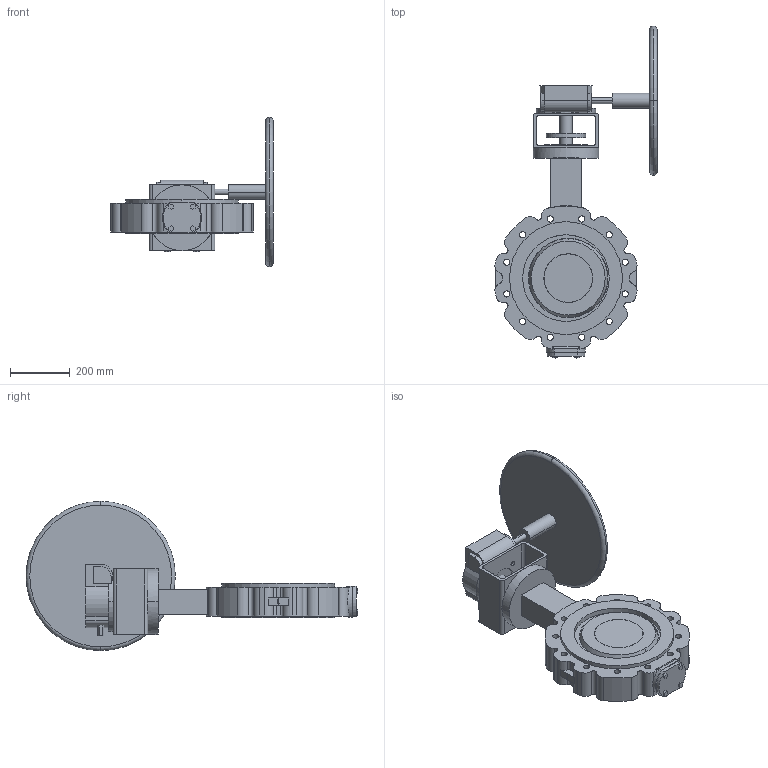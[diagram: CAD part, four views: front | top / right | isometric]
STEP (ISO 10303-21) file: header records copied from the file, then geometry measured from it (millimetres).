
FILE_DESCRIPTION( ( '' ), '1' );
FILE_NAME( 'F:/DE-SHS/TB/OR/04-Sonstiges/daten/Excel/mneugeba/018_ZETRIX-PN16_Getriebe-Rotork/c000006434.stp', '2016-09-19T06:27:54', ( '' ), ( '' ), ' ', ' ', ' ' );
FILE_SCHEMA( ( 'CONFIG_CONTROL_DESIGN' ) );
Length unit declared in the file: millimetre
Products named in the file (2): 1; 2
Bounding box: 542.85 x 1111.4 x 500 mm (x, y, z)
Volume: 26849513.3 mm3; surface area: 1767285.4 mm2
Topology: 2 solids, 2 shells, 328 faces, 891 edges, 593 vertices
Faces by surface type: cylinder 169, plane 147, sphere 4, cone 4, torus 4
Entity records: 11392 total; most frequent: CARTESIAN_POINT 2587, DIRECTION 1916, ORIENTED_EDGE 1782, EDGE_CURVE 891, AXIS2_PLACEMENT_3D 724, VERTEX_POINT 593, LINE 468, VECTOR 468
